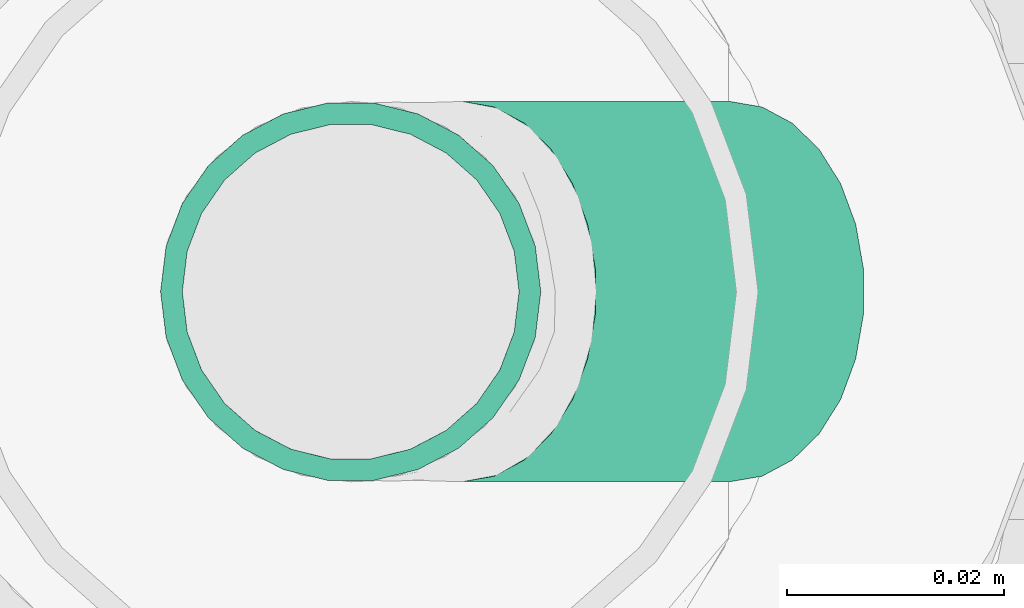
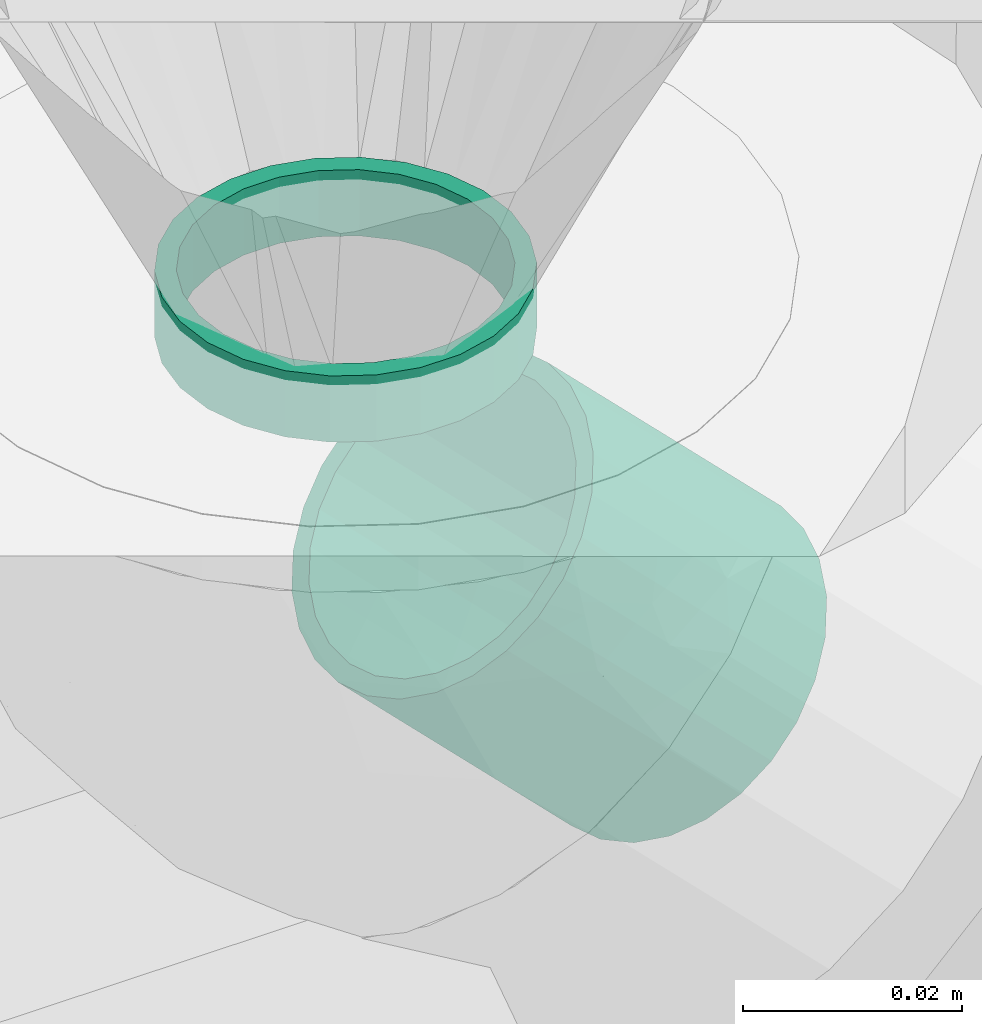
# One storey, part 23 of 35: 2 flow segments.
"""IFC2X3 building model written with IfcOpenShell, lengths in millimetres."""

from ifc_helpers import new_model, entity, si_unit, converted_unit, derived_unit, direction, frame, origin_with_axes, origin_2d_with_axis, place, context, subcontext, project, spatial, hollow_circle, extrude, source, transform, mapped, type_object, element, save


model = new_model("IFC2X3")

# Units and contexts
model_context = context("Model", 3, precision=0.01, world=frame((0.0, 4.29681676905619e-09, 0.0)), true_north=direction((4.01073788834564e-13, 1.0)))
plan_context = context("Plan", 3, precision=0.01, world=frame((0.0, 4.29681676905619e-09, 0.0)), true_north=direction((4.01073788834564e-13, 1.0)))
body_context = subcontext(model_context, "Body", "Model", "MODEL_VIEW")
ifc_project = project(units=[converted_unit("PLANEANGLEUNIT", "DEGREE", entity("IfcPositiveLengthMeasure", 0.0174532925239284), si_unit("PLANEANGLEUNIT", "RADIAN"), dimensions=[0, 0, 0, 0, 0, 0, 0]), si_unit("AREAUNIT", "SQUARE_METRE"), si_unit("LENGTHUNIT", "METRE", prefix="MILLI"), si_unit("MASSUNIT", "GRAM", prefix="KILO"), si_unit("POWERUNIT", "WATT"), si_unit("PRESSUREUNIT", "PASCAL"), si_unit("FORCEUNIT", "NEWTON", prefix="KILO"), si_unit("ELECTRICVOLTAGEUNIT", "VOLT"), si_unit("ELECTRICCURRENTUNIT", "AMPERE"), si_unit("THERMODYNAMICTEMPERATUREUNIT", "DEGREE_CELSIUS"), si_unit("TIMEUNIT", "SECOND"), si_unit("VOLUMEUNIT", "CUBIC_METRE"), derived_unit("LINEARVELOCITYUNIT", [(si_unit("LENGTHUNIT", "METRE"), 1), (si_unit("TIMEUNIT", "SECOND"), -1)]), derived_unit("VOLUMETRICFLOWRATEUNIT", [(si_unit("VOLUMEUNIT", "CUBIC_METRE"), 1), (si_unit("TIMEUNIT", "SECOND"), -1)]), derived_unit("THERMALTRANSMITTANCEUNIT", [(si_unit("POWERUNIT", "WATT"), 1), (si_unit("THERMODYNAMICTEMPERATUREUNIT", "KELVIN"), -1), (si_unit("AREAUNIT", "SQUARE_METRE"), -1)]), derived_unit("SOUNDPRESSUREUNIT", [(si_unit("PRESSUREUNIT", "PASCAL"), 1)])], contexts=[model_context, plan_context])

# Site, building, storey
site_placement = place(None, frame((0.0, -4.29681676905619e-09, 0.0), z_axis=(0.0, 0.0, 1.0), x_axis=(1.0, 0.0, 0.0)))
site = spatial("IfcSite", under=ifc_project, at=site_placement, Name="ENGM", CompositionType="ELEMENT")
building_placement = place(site_placement, frame((0.0, 4.29681676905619e-09, 0.0), z_axis=(0.0, 0.0, 1.0), x_axis=(1.0, 0.0, 0.0)))
building = spatial("IfcBuilding", under=site, at=building_placement, Name="TH", CompositionType="ELEMENT")
storey_placement = place(building_placement, frame((0.0, 0.0, 210200.0), z_axis=(0.0, 0.0, 1.0), x_axis=(1.0, 0.0, 0.0)))
storey = spatial("IfcBuildingStorey", under=building, at=storey_placement, Name="Nivå F - 0,7 m", CompositionType="ELEMENT", Elevation=210200.0)

# Flow segments
pipe_segment_type = type_object("IfcPipeSegmentType", Name="Kobberrør", PredefinedType="RIGIDSEGMENT")
shared_shape_1 = source(origin_with_axes(), body_context, "Body", "SweptSolid", [
    extrude(hollow_circle(Radius=17.5, WallThickness=2.0, at=origin_2d_with_axis()), frame((0.0, 0.0, 0.0), z_axis=(1.0, 0.0, 0.0), x_axis=(0.0, 1.0, 0.0)), (0.0, 0.0, 1.0), 7.4),
])
flow_segment_1_placement = place(storey_placement, frame((905283.35126, 486361.39307, 3185.46093999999), z_axis=(0.0, 0.99999988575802, 0.000477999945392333), x_axis=(0.0, -0.000477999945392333, 0.99999988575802)))
element("IfcFlowSegment", 1, at=flow_segment_1_placement, inside=storey, type_object=pipe_segment_type, Name="Kobberrør", context=body_context, shape_type="MappedRepresentation", body=[
    mapped(shared_shape_1, transform((0.0, 0.0, 0.0), scale=1.0)),
])
shared_shape_2 = source(origin_with_axes(), body_context, "Body", "SweptSolid", [
    extrude(hollow_circle(Radius=17.5, WallThickness=2.0, at=origin_2d_with_axis()), frame((0.0, 0.0, 0.0), z_axis=(1.0, 0.0, 0.0), x_axis=(0.0, 1.0, 0.0)), (0.0, 0.0, 1.0), 34.9),
])
flow_segment_2_placement = place(storey_placement, frame((905318.26266, 486361.4, 3136.05205999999), z_axis=(0.707106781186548, 0.0, 0.707106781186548), x_axis=(-0.707106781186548, 0.0, 0.707106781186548)))
element("IfcFlowSegment", 2, at=flow_segment_2_placement, inside=storey, type_object=pipe_segment_type, Name="Kobberrør", context=body_context, shape_type="MappedRepresentation", body=[
    mapped(shared_shape_2, transform((0.0, 0.0, 0.0), scale=1.0)),
])

save(model, "model.ifc")
